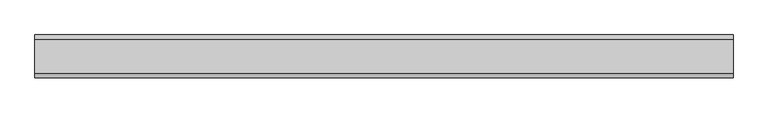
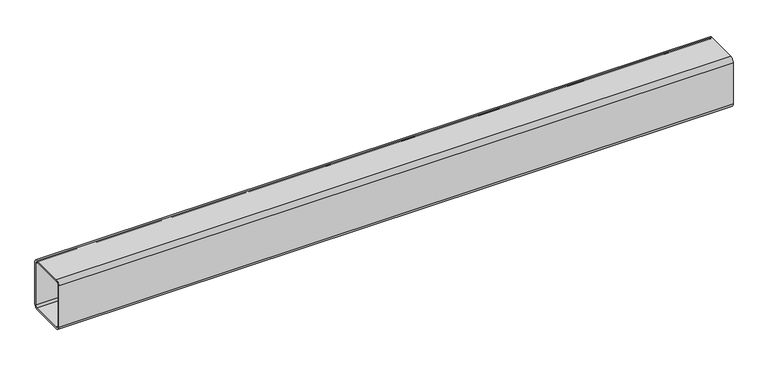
"""IFC4 building model written with IfcOpenShell, lengths in millimetres: beam geometry, Труба прямоугольного сечения (ТУ 67-2287-80) Балки : труба200x160x8."""

import ifcopenshell
import ifcopenshell.guid

model = None  # the IFC model being written
_history = None  # IfcOwnerHistory: only IFC2X3 demands one
_inside = {}  # id of a spatial element -> (the spatial element, [elements in it])
_under = {}  # id of a project, library or spatial element -> (it, [spatial elements below it])
_declared = {}  # id of a project -> (the project, [libraries it declares])
_typed = {}  # id of a type object -> (the type object, [elements of that type])
_made_of = {}  # id of a material, layer set ... -> (it, [elements and type objects made of it])


def new_model(schema):
    """Start an empty IFC model of exactly this schema.

    Asked for "IFC4X3", IfcOpenShell would pick the latest addendum, in which some entities
    have other attributes; the version numbers below select the first issue.
    IFC2X3 requires an IfcOwnerHistory on every rooted entity: one is made here for all.
    """
    global model, _history
    if schema == "IFC4X3":
        model = ifcopenshell.file(schema_version=(4, 3, 0, 0))
    else:
        model = ifcopenshell.file(schema=schema)
    _inside.clear()
    _under.clear()
    _declared.clear()
    _typed.clear()
    _made_of.clear()
    _history = None
    if model.schema == "IFC2X3":
        org = make("IfcOrganization", Name="unknown")
        user = make(
            "IfcPersonAndOrganization",
            ThePerson=make("IfcPerson", FamilyName="unknown"),
            TheOrganization=org,
        )
        app = make(
            "IfcApplication",
            ApplicationDeveloper=org,
            Version="unknown",
            ApplicationFullName="unknown",
            ApplicationIdentifier="unknown",
        )
        _history = make(
            "IfcOwnerHistory",
            OwningUser=user,
            OwningApplication=app,
            ChangeAction="ADDED",
            CreationDate=0,
        )
    return model


def make(cls, **values):
    """One entity of the class cls with the attributes given. An attribute that is None is left unset."""
    return model.create_entity(
        cls, **{name: value for name, value in values.items() if value is not None}
    )


def rooted(cls, **values):
    """An entity with a GlobalId (a new one), such as an element, a storey or a relation."""
    return make(cls, GlobalId=ifcopenshell.guid.new(), OwnerHistory=_history, **values)


def si_unit(unit_type, name, prefix=None):
    """IfcSIUnit, for example si_unit("LENGTHUNIT", "METRE", prefix="MILLI")."""
    return make("IfcSIUnit", UnitType=unit_type, Prefix=prefix, Name=name)


def assignment(units):
    """IfcUnitAssignment: the units of a project."""
    return None if units is None else make("IfcUnitAssignment", Units=units)


def point(xyz):
    """IfcCartesianPoint."""
    return None if xyz is None else make("IfcCartesianPoint", Coordinates=xyz)


def direction(xyz):
    """IfcDirection."""
    return None if xyz is None else make("IfcDirection", DirectionRatios=xyz)


def frame(location, z_axis=None, x_axis=None):
    """IfcAxis2Placement3D, a coordinate frame: its origin and axes. An axis left out is left unset."""
    return make(
        "IfcAxis2Placement3D",
        Location=point(location),
        Axis=direction(z_axis),
        RefDirection=direction(x_axis),
    )


def frame_2d(location, x_axis=None):
    """IfcAxis2Placement2D, a coordinate frame in the plane: its origin and x axis."""
    return make(
        "IfcAxis2Placement2D", Location=point(location), RefDirection=direction(x_axis)
    )


def origin():
    """The frame at (0, 0, 0) with its axes left unset."""
    return frame((0.0, 0.0, 0.0))


def place(relative_to, where):
    """IfcLocalPlacement: puts the frame where relative to a parent placement (None: the world)."""
    return make(
        "IfcLocalPlacement", PlacementRelTo=relative_to, RelativePlacement=where
    )


def context(
    kind, dimensions, precision=None, world=None, true_north=None, identifier=None
):
    """IfcGeometricRepresentationContext, for example the 3D "Model" context."""
    return make(
        "IfcGeometricRepresentationContext",
        ContextIdentifier=identifier,
        ContextType=kind,
        CoordinateSpaceDimension=dimensions,
        Precision=precision,
        WorldCoordinateSystem=world,
        TrueNorth=true_north,
    )


def project(units=None, contexts=None):
    """IfcProject with its units and contexts."""
    return rooted(
        "IfcProject",
        Name="project",
        RepresentationContexts=contexts,
        UnitsInContext=assignment(units),
    )


def spatial(cls, under=None, at=None, **own):
    """A site, building, storey or space (cls), placed at a placement, below another one or the project."""
    s = rooted(cls, ObjectPlacement=at, **own)
    if under is not None:
        _under.setdefault(under.id(), (under, []))[1].append(s)
    return s


def polyline(points):
    """IfcPolyline through the points."""
    return make("IfcPolyline", Points=[point(p) for p in points])


def circle_curve(where, radius):
    """IfcCircle in the frame where."""
    return make("IfcCircle", Position=where, Radius=radius)


def trimmed(basis, trim1, trim2, sense, master):
    """IfcTrimmedCurve: the piece of a basis curve between two trims."""
    return make(
        "IfcTrimmedCurve",
        BasisCurve=basis,
        Trim1=trim1,
        Trim2=trim2,
        SenseAgreement=sense,
        MasterRepresentation=master,
    )


def segment(curve, same_sense, transition):
    """IfcCompositeCurveSegment."""
    return make(
        "IfcCompositeCurveSegment",
        Transition=transition,
        SameSense=same_sense,
        ParentCurve=curve,
    )


def composite_curve(segments, self_intersect=None):
    """IfcCompositeCurve: segments joined end to end."""
    return make("IfcCompositeCurve", Segments=segments, SelfIntersect=self_intersect)


def outline(outer, holes=None, kind="AREA"):
    """IfcArbitraryClosedProfileDef: a profile drawn as a closed curve; with holes, ...WithVoids."""
    if holes is None:
        return make("IfcArbitraryClosedProfileDef", ProfileType=kind, OuterCurve=outer)
    return make(
        "IfcArbitraryProfileDefWithVoids",
        ProfileType=kind,
        OuterCurve=outer,
        InnerCurves=holes,
    )


def extrude(swept, where, along, depth):
    """IfcExtrudedAreaSolid: the profile swept, set in the frame where, extruded along a direction by depth."""
    return make(
        "IfcExtrudedAreaSolid",
        SweptArea=swept,
        Position=where,
        ExtrudedDirection=direction(along),
        Depth=depth,
    )


def shape(context_of_items, identifier, shape_type, items):
    """IfcShapeRepresentation: the items that make up one representation, for example the "Body"."""
    return make(
        "IfcShapeRepresentation",
        ContextOfItems=context_of_items,
        RepresentationIdentifier=identifier,
        RepresentationType=shape_type,
        Items=items,
    )


def source(mapping_origin, context_of_items, identifier, shape_type, items):
    """IfcRepresentationMap: a shape defined once, which mapped items show again and again."""
    return make(
        "IfcRepresentationMap",
        MappingOrigin=mapping_origin,
        MappedRepresentation=shape(context_of_items, identifier, shape_type, items),
    )


def transform(
    local_origin,
    x_axis=None,
    y_axis=None,
    z_axis=None,
    scale=None,
    scale2=None,
    scale3=None,
    uniform=True,
):
    """IfcCartesianTransformationOperator3D, or its non-uniform kind. x_axis, y_axis, z_axis: its Axis1, 2, 3."""
    if uniform:
        return make(
            "IfcCartesianTransformationOperator3D",
            Axis1=direction(x_axis),
            Axis2=direction(y_axis),
            LocalOrigin=point(local_origin),
            Scale=scale,
            Axis3=direction(z_axis),
        )
    return make(
        "IfcCartesianTransformationOperator3DnonUniform",
        Axis1=direction(x_axis),
        Axis2=direction(y_axis),
        LocalOrigin=point(local_origin),
        Scale=scale,
        Axis3=direction(z_axis),
        Scale2=scale2,
        Scale3=scale3,
    )


def mapped(mapping_source, mapping_target):
    """IfcMappedItem: shows the shape of a source again, moved by a transform."""
    return make(
        "IfcMappedItem", MappingSource=mapping_source, MappingTarget=mapping_target
    )


def made_of(thing, what):
    """Note that an element or type object is made of a material, layer set ...; save() writes the relation."""
    if what is not None:
        _made_of.setdefault(what.id(), (what, []))[1].append(thing)
    return thing


def element(
    cls,
    number,
    at=None,
    inside=None,
    cuts=None,
    type_object=None,
    material=None,
    context=None,
    identifier="Body",
    shape_type=None,
    held_by="IfcProductDefinitionShape",
    body=None,
    shapes=None,
    **own,
):
    """One element of the class cls, such as IfcWall. Its Tag is "e" and its number.

    at: its placement. inside: the storey or other place that contains it. cuts: it is an
    opening in that element (IfcRelVoidsElement). A single representation is given by context,
    identifier, shape_type and body (its items); several are given by shapes. held_by: the class
    of the entity that holds the representations. save() writes the other relations.
    """
    e = rooted(cls, Tag="e%d" % number, ObjectPlacement=at, **own)
    if body is not None:
        shapes = [shape(context, identifier, shape_type, body)]
    if shapes is not None:
        e.Representation = make(held_by, Representations=shapes)
    if inside is not None:
        _inside.setdefault(inside.id(), (inside, []))[1].append(e)
    if cuts is not None:
        rooted(
            "IfcRelVoidsElement", RelatingBuildingElement=cuts, RelatedOpeningElement=e
        )
    if type_object is not None:
        _typed.setdefault(type_object.id(), (type_object, []))[1].append(e)
    return made_of(e, material)


def aggregate(whole, parts):
    """IfcRelAggregates: a whole, such as a stair, and the parts it consists of."""
    return rooted("IfcRelAggregates", RelatingObject=whole, RelatedObjects=parts)


def save(model, path):
    """Write the relations noted so far, then the file.

    IfcRelAggregates (storeys below a building ...), IfcRelContainedInSpatialStructure (elements
    in a storey), IfcRelDefinesByType, IfcRelAssociatesMaterial and IfcRelDeclares: one each for
    every whole, place, type object, material and project.
    """
    for whole, parts in _under.values():
        aggregate(whole, parts)
    for where, things in _inside.values():
        rooted(
            "IfcRelContainedInSpatialStructure",
            RelatedElements=things,
            RelatingStructure=where,
        )
    for kind, things in _typed.values():
        rooted("IfcRelDefinesByType", RelatedObjects=things, RelatingType=kind)
    for what, things in _made_of.values():
        rooted("IfcRelAssociatesMaterial", RelatedObjects=things, RelatingMaterial=what)
    for by, libraries in _declared.values():
        rooted("IfcRelDeclares", RelatingContext=by, RelatedDefinitions=libraries)
    model.write(path)


def beam_ac02ee2d(model_context):
    return source(origin(), model_context, "Body", "SweptSolid", [
        extrude(outline(composite_curve([segment(polyline([(-64.0, 100.0), (64.0, 100.0)]), True, "CONTINUOUS"), segment(trimmed(circle_curve(frame_2d((64.0, 84.0)), 16.0), [point((64.0, 100.0))], [point((80.0, 84.0))], False, "CARTESIAN"), True, "CONTINUOUS"), segment(polyline([(80.0, 84.0), (80.0, -84.0)]), True, "CONTINUOUS"), segment(trimmed(circle_curve(frame_2d((64.0, -84.0)), 16.0), [point((80.0, -84.0))], [point((64.0, -100.0))], False, "CARTESIAN"), True, "CONTINUOUS"), segment(polyline([(64.0, -100.0), (-64.0, -100.0)]), True, "CONTINUOUS"), segment(trimmed(circle_curve(frame_2d((-64.0, -84.0)), 16.0), [point((-64.0, -100.0))], [point((-80.0, -84.0))], False, "CARTESIAN"), True, "CONTINUOUS"), segment(polyline([(-80.0, -84.0), (-80.0, 84.0)]), True, "CONTINUOUS"), segment(trimmed(circle_curve(frame_2d((-64.0, 84.0)), 16.0), [point((-80.0, 84.0))], [point((-64.0, 100.0))], False, "CARTESIAN"), True, "CONTINUOUS")], self_intersect=False), holes=[composite_curve([segment(trimmed(circle_curve(frame_2d((-64.0, 84.0)), 8.0), [point((-64.0, 92.0))], [point((-72.0, 84.0))], True, "CARTESIAN"), True, "CONTINUOUS"), segment(polyline([(-72.0, 84.0), (-72.0, -84.0)]), True, "CONTINUOUS"), segment(trimmed(circle_curve(frame_2d((-64.0, -84.0)), 8.0), [point((-72.0, -84.0))], [point((-64.0, -92.0))], True, "CARTESIAN"), True, "CONTINUOUS"), segment(polyline([(-64.0, -92.0), (64.0, -92.0)]), True, "CONTINUOUS"), segment(trimmed(circle_curve(frame_2d((64.0, -84.0)), 8.0), [point((64.0, -92.0))], [point((72.0, -84.0))], True, "CARTESIAN"), True, "CONTINUOUS"), segment(polyline([(72.0, -84.0), (72.0, 84.0)]), True, "CONTINUOUS"), segment(trimmed(circle_curve(frame_2d((64.0, 84.0)), 8.0), [point((72.0, 84.0))], [point((64.0, 92.0))], True, "CARTESIAN"), True, "CONTINUOUS"), segment(polyline([(64.0, 92.0), (-64.0, 92.0)]), True, "CONTINUOUS")], self_intersect=False)]), frame((-1300.0, 0.0, 0.0), z_axis=(1.0, 0.0, 0.0), x_axis=(0.0, 1.0, 0.0)), (0.0, 0.0, 1.0), 2600.0),
    ])


if __name__ == "__main__":
    model = new_model("IFC4")
    model_context = context("Model", 3, world=origin())
    ifc_project = project(units=[si_unit("LENGTHUNIT", "METRE", prefix="MILLI")], contexts=[model_context])
    site = spatial("IfcSite", under=ifc_project)
    building = spatial("IfcBuilding", under=site)
    placement = place(None, origin())
    beam_shape = beam_ac02ee2d(model_context)
    element("IfcBeam", 1, ObjectType="Труба прямоугольного сечения (ТУ 67-2287-80) Балки : труба200x160x8", at=placement, inside=building, context=model_context, shape_type="MappedRepresentation", body=[
        mapped(beam_shape, transform((0.0, 0.0, 0.0), x_axis=(1.0, 0.0, 0.0), y_axis=(0.0, 1.0, 0.0), z_axis=(0.0, 0.0, 1.0))),
    ])
    save(model, "model.ifc")
